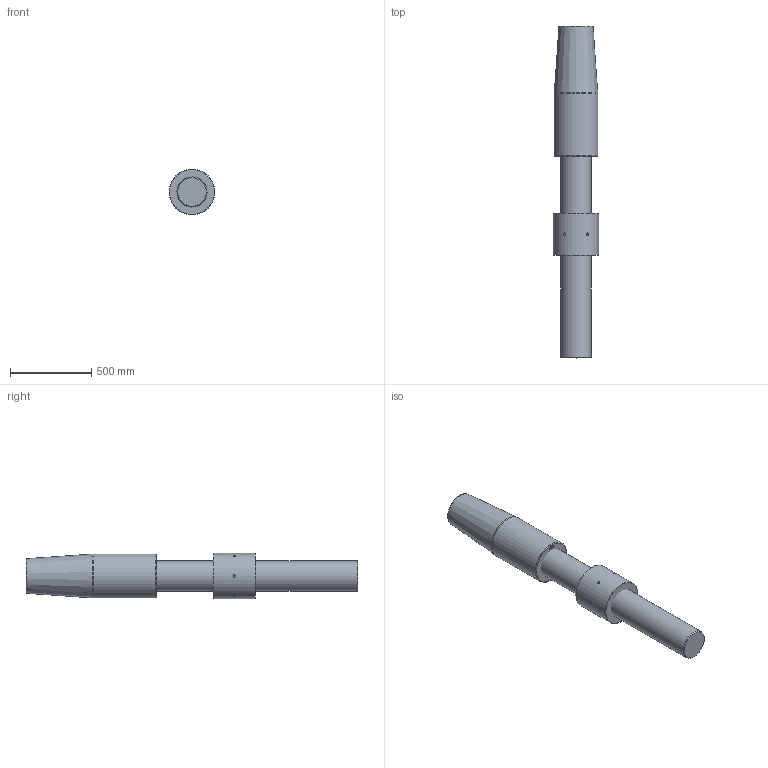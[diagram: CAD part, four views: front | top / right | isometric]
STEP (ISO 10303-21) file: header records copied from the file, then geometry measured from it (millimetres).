
FILE_DESCRIPTION(/* description */ (''),/* implementation_level */ '2;1');
FILE_NAME(/* name */ 'C:\Users\ranca\Desktop\CYM\ARRANGEMENT\CYM092 52 061 0.stp',/* time_stamp */ '2021-04-22T22:12:29+02:00',/* author */ ('ranca'),/* organization */ (''),/* preprocessor_version */ 'ST-DEVELOPER v16.13',/* originating_system */ 'Autodesk Inventor 2018',/* authorisation */ '');
FILE_SCHEMA (('AUTOMOTIVE_DESIGN { 1 0 10303 214 3 1 1 }'));
Length unit declared in the file: millimetre
Products named in the file (4): CYM092-52-061-0; CYM012-52-061-0_ROD; CYC092 52 065 0_CYL SOK_RH; CYM092-41-051-0
Assembly tree (3 placements, depth 2):
  CYM092-52-061-0
    CYM012-52-061-0_ROD
    CYC092 52 065 0_CYL SOK_RH
    CYM092-41-051-0
Bounding box: 280 x 2039 x 280 mm (x, y, z)
Volume: 97306891.2 mm3; surface area: 2006652.7 mm2
Topology: 3 solids, 3 shells, 525 faces, 1414 edges, 940 vertices
Faces by surface type: bspline 286, plane 217, cone 11, cylinder 9, torus 2
Full cylindrical faces by diameter (mm): 15 x6, 185 x1, 270 x1, 280 x1
Entity records: 17995 total; most frequent: CARTESIAN_POINT 6794, ORIENTED_EDGE 2770, EDGE_CURVE 1385, DIRECTION 1316, VERTEX_POINT 934, LINE 780, VECTOR 780, EDGE_LOOP 593
